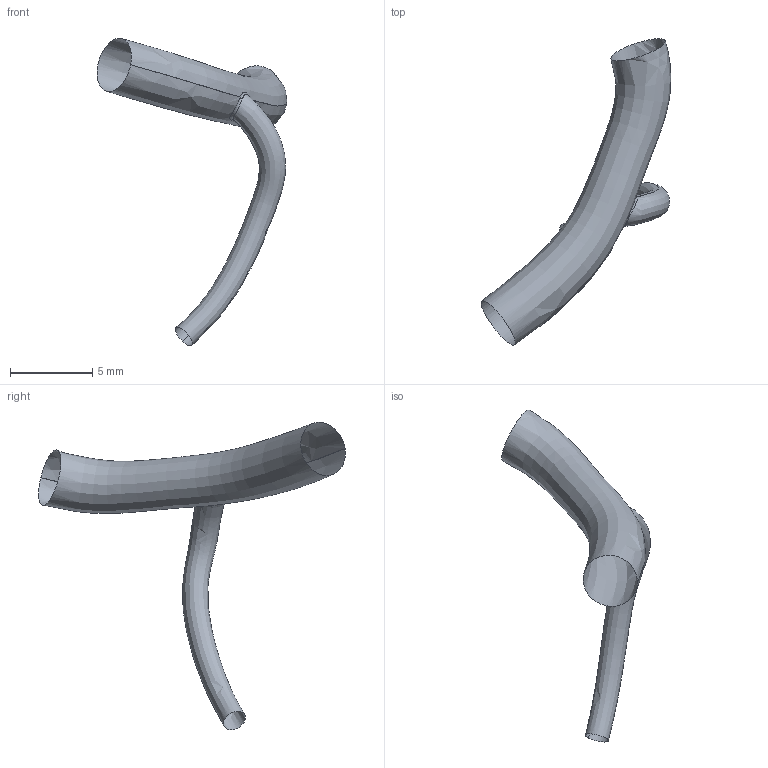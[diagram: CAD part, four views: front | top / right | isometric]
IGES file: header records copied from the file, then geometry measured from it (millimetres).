
Global section: file name: C:\Documents and Settings\Administrator\Desktop\FDA Bifurcation win\RawData_for_IGES\HRCA_Data\20010719.155526\IGES\20010719.155526.RM1.BIFUR.ED.igs; native system: Rhinoceros ( May 19 2006 ); preprocessor: Trout Lake IGES 012 May 19 2006; date: 100728.211733; units: centimetre
Bounding box: 11.57 x 18.69 x 18.74 mm (x, y, z)
Surface area: 284.2 mm2 (no closed solid volume)
Topology: 0 solids, 0 shells, 5 faces, 38 edges, 35 vertices
Faces by surface type: bspline 5
